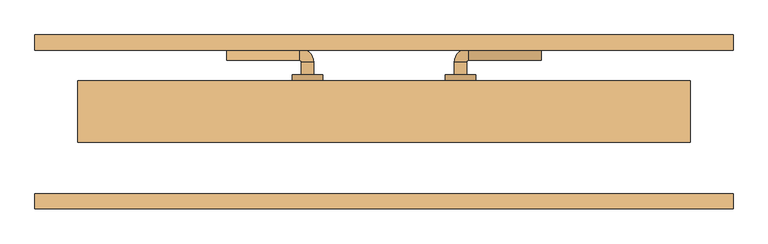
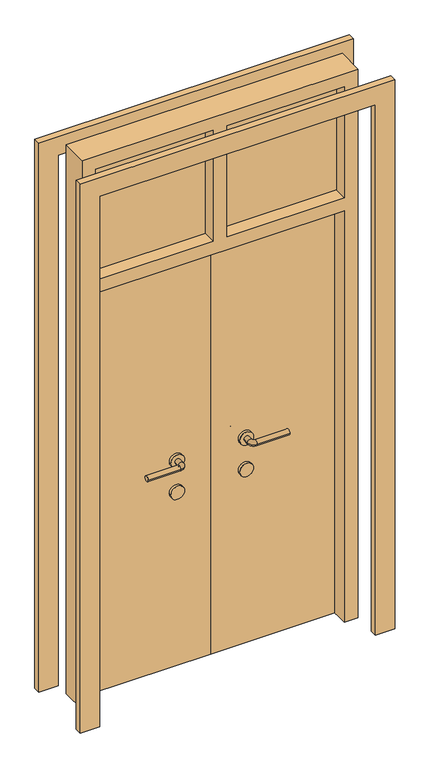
"""IFC4 building model written with IfcOpenShell, lengths in millimetres: door geometry, FM(丙）1 : FM(丙）1."""

from ifc_helpers import new_model, si_unit, point, frame, frame_2d, origin, origin_with_axes, place, context, project, spatial, polyline, circle_curve, ellipse_curve, trimmed, segment, composite_curve, outline, extrude, source, transform, mapped, element, save
from ifc_brep_helpers import plane_surface, cylinder_surface, revolved_surface, advanced_brep


def door_014e05d9(model_context):
    return source(origin(), model_context, "Body", "SolidModel", [
        extrude(outline(composite_curve([segment(trimmed(circle_curve(frame_2d((667.5, 125.0)), 25.0), [point((667.5, 150.0))], [point((667.5, 100.0))], False, "CARTESIAN"), True, "CONTINUOUS"), segment(trimmed(circle_curve(frame_2d((667.5, 125.0)), 25.0), [point((667.5, 100.0))], [point((667.5, 150.0))], False, "CARTESIAN"), True, "CONTINUOUS")], self_intersect=False)), frame((0.0, 17.0, 0.0), z_axis=(0.0, 1.0, 0.0), x_axis=(0.0, 0.0, 1.0)), (0.0, 0.0, 1.0), 10.0),
        extrude(outline(composite_curve([segment(trimmed(circle_curve(frame_2d((667.5, 125.0)), 25.0), [point((667.5, 150.0))], [point((667.5, 100.0))], False, "CARTESIAN"), True, "CONTINUOUS"), segment(trimmed(circle_curve(frame_2d((667.5, 125.0)), 25.0), [point((667.5, 100.0))], [point((667.5, 150.0))], False, "CARTESIAN"), True, "CONTINUOUS")], self_intersect=False)), frame((0.0, 67.0, 0.0), z_axis=(0.0, 1.0, 0.0), x_axis=(0.0, 0.0, 1.0)), (0.0, 0.0, 1.0), 10.0),
        advanced_brep(
        [(115.0, 17.0, 787.5), (135.0, 17.0, 787.5), (135.0, -3.6133551, 787.5), (115.0, -3.6133551, 787.5), (256.580964, -26.580964, 787.5), (256.580964, -6.580964, 787.5), (137.9676089, -6.580964, 787.5), (137.9676089, -26.580964, 787.5)],
        [
            (0, 1, circle_curve(frame((125.0, 17.0, 787.5), z_axis=(0.0, 1.0, 0.0), x_axis=(1.0, 0.0, 0.0)), 10.0)),
            (1, 0, circle_curve(frame((125.0, 17.0, 787.5), z_axis=(0.0, 1.0, 0.0), x_axis=(1.0, 0.0, 0.0)), 10.0)),
            (1, 2),
            (2, 3, circle_curve(frame((125.0, -3.6133551, 787.5), z_axis=(0.0, 1.0, 0.0), x_axis=(1.0, 0.0, 0.0)), 10.0)),
            (3, 0),
            (3, 2, circle_curve(frame((125.0, -3.6133551, 787.5), z_axis=(0.0, 1.0, 0.0), x_axis=(1.0, 0.0, 0.0)), 10.0)),
            (4, 5, circle_curve(frame((256.580964, -16.580964, 787.5), z_axis=(1.0, 0.0, 0.0), x_axis=(0.0, 1.0, 0.0)), 10.0)),
            (5, 4, circle_curve(frame((256.580964, -16.580964, 787.5), z_axis=(1.0, 0.0, 0.0), x_axis=(0.0, 1.0, 0.0)), 10.0)),
            (6, 2, circle_curve(frame((137.9676089, -3.6133551, 787.5), z_axis=(0.0, 0.0, -1.0), x_axis=(-1.0, 0.0, 0.0)), 2.9676089)),
            (3, 7, circle_curve(frame((137.9676089, -3.6133551, 787.5), z_axis=(0.0, 0.0, 1.0), x_axis=(-1.0, 0.0, 0.0)), 22.9676089)),
            (7, 6, circle_curve(frame((137.9676089, -16.580964, 787.5), z_axis=(-1.0, 0.0, 0.0), x_axis=(0.0, 1.0, 0.0)), 10.0)),
            (6, 7, circle_curve(frame((137.9676089, -16.580964, 787.5), z_axis=(-1.0, 0.0, 0.0), x_axis=(0.0, 1.0, 0.0)), 10.0)),
            (7, 4),
            (5, 6),
        ],
        [
            plane_surface(frame((125.0, 17.0, 667.5), z_axis=(0.0, 1.0, 0.0), x_axis=(0.0, 0.0, 1.0))),
            cylinder_surface(frame((125.0, 17.0, 787.5), z_axis=(0.0, 1.0, 0.0), x_axis=(1.0, 0.0, 0.0)), 10.0),
            plane_surface(frame((256.580964, -16.580964, 667.5), z_axis=(1.0, 0.0, 0.0), x_axis=(0.0, 0.0, 1.0))),
            revolved_surface(trimmed(ellipse_curve(frame((125.0, -3.6133551, 787.5), z_axis=(0.0, 1.0, 0.0), x_axis=(1.0, 0.0, 0.0)), 10.0, 10.0), [point((115.0, -3.6133551, 787.5))], [point((135.0, -3.6133551, 787.5))], True, "CARTESIAN"), (137.9676089, -3.6133551, 667.5), (0.0, 0.0, 1.0)),
            revolved_surface(trimmed(ellipse_curve(frame((125.0, -3.6133551, 787.5), z_axis=(0.0, 1.0, 0.0), x_axis=(1.0, 0.0, 0.0)), 10.0, 10.0), [point((135.0, -3.6133551, 787.5))], [point((115.0, -3.6133551, 787.5))], True, "CARTESIAN"), (137.9676089, -3.6133551, 667.5), (0.0, 0.0, 1.0)),
            cylinder_surface(frame((137.9676089, -16.580964, 787.5), z_axis=(-1.0, 0.0, 0.0), x_axis=(0.0, 1.0, 0.0)), 10.0),
        ],
        [
            (0, [[1, 2]]),
            (1, [[-2, 3, 4, 5]]),
            (1, [[-1, -5, 6, -3]]),
            (2, [[7, 8]]),
            (3, [[9, -6, 10, 11]]),
            (4, [[-10, -4, -9, 12]]),
            (5, [[-11, 13, -8, 14]]),
            (5, [[-12, -14, -7, -13]]),
        ],
    ),
        extrude(outline(composite_curve([segment(trimmed(circle_curve(frame_2d((787.5, 125.0)), 25.0), [point((787.5, 150.0))], [point((787.5, 100.0))], False, "CARTESIAN"), True, "CONTINUOUS"), segment(trimmed(circle_curve(frame_2d((787.5, 125.0)), 25.0), [point((787.5, 100.0))], [point((787.5, 150.0))], False, "CARTESIAN"), True, "CONTINUOUS")], self_intersect=False)), frame((0.0, 17.0, 0.0), z_axis=(0.0, 1.0, 0.0), x_axis=(0.0, 0.0, 1.0)), (0.0, 0.0, 1.0), 10.0),
        advanced_brep(
        [(135.0, 77.0, 787.5), (115.0, 77.0, 787.5), (135.0, 97.6133551, 787.5), (115.0, 97.6133551, 787.5), (256.580964, 100.580964, 787.5), (256.580964, 120.580964, 787.5), (137.9676089, 120.580964, 787.5), (137.9676089, 100.580964, 787.5)],
        [
            (0, 1, circle_curve(frame((125.0, 77.0, 787.5), z_axis=(0.0, -1.0, 0.0), x_axis=(-1.0, 0.0, 0.0)), 10.0)),
            (1, 0, circle_curve(frame((125.0, 77.0, 787.5), z_axis=(0.0, -1.0, 0.0), x_axis=(-1.0, 0.0, 0.0)), 10.0)),
            (0, 2),
            (2, 3, circle_curve(frame((125.0, 97.6133551, 787.5), z_axis=(0.0, -1.0, 0.0), x_axis=(-1.0, 0.0, 0.0)), 10.0)),
            (3, 1),
            (3, 2, circle_curve(frame((125.0, 97.6133551, 787.5), z_axis=(0.0, -1.0, 0.0), x_axis=(-1.0, 0.0, 0.0)), 10.0)),
            (4, 5, circle_curve(frame((256.580964, 110.580964, 787.5), z_axis=(1.0, 0.0, 0.0), x_axis=(0.0, 1.0, 0.0)), 10.0)),
            (5, 4, circle_curve(frame((256.580964, 110.580964, 787.5), z_axis=(1.0, 0.0, 0.0), x_axis=(0.0, 1.0, 0.0)), 10.0)),
            (6, 3, circle_curve(frame((137.9676089, 97.6133551, 787.5), z_axis=(0.0, 0.0, 1.0), x_axis=(-1.0, 0.0, 0.0)), 22.9676089)),
            (2, 7, circle_curve(frame((137.9676089, 97.6133551, 787.5), z_axis=(0.0, 0.0, -1.0), x_axis=(-1.0, 0.0, 0.0)), 2.9676089)),
            (7, 6, circle_curve(frame((137.9676089, 110.580964, 787.5), z_axis=(-1.0, 0.0, 0.0), x_axis=(0.0, 1.0, 0.0)), 10.0)),
            (6, 7, circle_curve(frame((137.9676089, 110.580964, 787.5), z_axis=(-1.0, 0.0, 0.0), x_axis=(0.0, 1.0, 0.0)), 10.0)),
            (7, 4),
            (5, 6),
        ],
        [
            plane_surface(frame((125.0, 77.0, 667.5), z_axis=(0.0, -1.0, 0.0), x_axis=(0.0, 0.0, 1.0))),
            cylinder_surface(frame((125.0, 77.0, 787.5), z_axis=(0.0, -1.0, 0.0), x_axis=(-1.0, 0.0, 0.0)), 10.0),
            plane_surface(frame((256.580964, 110.580964, 667.5), z_axis=(1.0, 0.0, 0.0), x_axis=(0.0, 0.0, 1.0))),
            revolved_surface(trimmed(ellipse_curve(frame((125.0, 97.6133551, 787.5), z_axis=(0.0, -1.0, 0.0), x_axis=(-1.0, 0.0, 0.0)), 10.0, 10.0), [point((135.0, 97.6133551, 787.5))], [point((115.0, 97.6133551, 787.5))], True, "CARTESIAN"), (137.9676089, 97.6133551, 667.5), (0.0, 0.0, -1.0)),
            revolved_surface(trimmed(ellipse_curve(frame((125.0, 97.6133551, 787.5), z_axis=(0.0, -1.0, 0.0), x_axis=(-1.0, 0.0, 0.0)), 10.0, 10.0), [point((115.0, 97.6133551, 787.5))], [point((135.0, 97.6133551, 787.5))], True, "CARTESIAN"), (137.9676089, 97.6133551, 667.5), (0.0, 0.0, -1.0)),
            cylinder_surface(frame((137.9676089, 110.580964, 787.5), z_axis=(-1.0, 0.0, 0.0), x_axis=(0.0, 1.0, 0.0)), 10.0),
        ],
        [
            (0, [[1, 2]]),
            (1, [[-1, 3, 4, 5]]),
            (1, [[-2, -5, 6, -3]]),
            (2, [[7, 8]]),
            (3, [[9, -4, 10, 11]]),
            (4, [[-10, -6, -9, 12]]),
            (5, [[-11, 13, -8, 14]]),
            (5, [[-12, -14, -7, -13]]),
        ],
    ),
        extrude(outline(composite_curve([segment(trimmed(circle_curve(frame_2d((787.5, 125.0)), 25.0), [point((787.5, 150.0))], [point((787.5, 100.0))], False, "CARTESIAN"), True, "CONTINUOUS"), segment(trimmed(circle_curve(frame_2d((787.5, 125.0)), 25.0), [point((787.5, 100.0))], [point((787.5, 150.0))], False, "CARTESIAN"), True, "CONTINUOUS")], self_intersect=False)), frame((0.0, 67.0, 0.0), z_axis=(0.0, 1.0, 0.0), x_axis=(0.0, 0.0, 1.0)), (0.0, 0.0, 1.0), 10.0),
        extrude(outline(composite_curve([segment(trimmed(circle_curve(frame_2d((667.5, -125.0)), 25.0), [point((667.5, -150.0))], [point((667.5, -100.0))], False, "CARTESIAN"), True, "CONTINUOUS"), segment(trimmed(circle_curve(frame_2d((667.5, -125.0)), 25.0), [point((667.5, -100.0))], [point((667.5, -150.0))], False, "CARTESIAN"), True, "CONTINUOUS")], self_intersect=False)), frame((0.0, 67.0, 0.0), z_axis=(0.0, 1.0, 0.0), x_axis=(0.0, 0.0, 1.0)), (0.0, 0.0, 1.0), 10.0),
        extrude(outline(composite_curve([segment(trimmed(circle_curve(frame_2d((667.5, -125.0)), 25.0), [point((667.5, -150.0))], [point((667.5, -100.0))], False, "CARTESIAN"), True, "CONTINUOUS"), segment(trimmed(circle_curve(frame_2d((667.5, -125.0)), 25.0), [point((667.5, -100.0))], [point((667.5, -150.0))], False, "CARTESIAN"), True, "CONTINUOUS")], self_intersect=False)), frame((0.0, 17.0, 0.0), z_axis=(0.0, 1.0, 0.0), x_axis=(0.0, 0.0, 1.0)), (0.0, 0.0, 1.0), 10.0),
        advanced_brep(
        [(-115.0, 77.0, 787.5), (-135.0, 77.0, 787.5), (-135.0, 97.6133551, 787.5), (-115.0, 97.6133551, 787.5), (-256.580964, 120.580964, 787.5), (-256.580964, 100.580964, 787.5), (-137.9676089, 100.580964, 787.5), (-137.9676089, 120.580964, 787.5)],
        [
            (0, 1, circle_curve(frame((-125.0, 77.0, 787.5), z_axis=(0.0, -1.0, 0.0), x_axis=(-1.0, 0.0, 0.0)), 10.0)),
            (1, 0, circle_curve(frame((-125.0, 77.0, 787.5), z_axis=(0.0, -1.0, 0.0), x_axis=(-1.0, 0.0, 0.0)), 10.0)),
            (1, 2),
            (2, 3, circle_curve(frame((-125.0, 97.6133551, 787.5), z_axis=(0.0, -1.0, 0.0), x_axis=(-1.0, 0.0, 0.0)), 10.0)),
            (3, 0),
            (3, 2, circle_curve(frame((-125.0, 97.6133551, 787.5), z_axis=(0.0, -1.0, 0.0), x_axis=(-1.0, 0.0, 0.0)), 10.0)),
            (4, 5, circle_curve(frame((-256.580964, 110.580964, 787.5), z_axis=(-1.0, 0.0, 0.0), x_axis=(0.0, -1.0, 0.0)), 10.0)),
            (5, 4, circle_curve(frame((-256.580964, 110.580964, 787.5), z_axis=(-1.0, 0.0, 0.0), x_axis=(0.0, -1.0, 0.0)), 10.0)),
            (6, 2, circle_curve(frame((-137.9676089, 97.6133551, 787.5), z_axis=(0.0, 0.0, -1.0), x_axis=(1.0, 0.0, 0.0)), 2.9676089)),
            (3, 7, circle_curve(frame((-137.9676089, 97.6133551, 787.5), z_axis=(0.0, 0.0, 1.0), x_axis=(1.0, 0.0, 0.0)), 22.9676089)),
            (7, 6, circle_curve(frame((-137.9676089, 110.580964, 787.5), z_axis=(1.0, 0.0, 0.0), x_axis=(0.0, -1.0, 0.0)), 10.0)),
            (6, 7, circle_curve(frame((-137.9676089, 110.580964, 787.5), z_axis=(1.0, 0.0, 0.0), x_axis=(0.0, -1.0, 0.0)), 10.0)),
            (7, 4),
            (5, 6),
        ],
        [
            plane_surface(frame((-125.0, 77.0, 667.5), z_axis=(0.0, -1.0, 0.0), x_axis=(0.0, 0.0, 1.0))),
            cylinder_surface(frame((-125.0, 77.0, 787.5), z_axis=(0.0, -1.0, 0.0), x_axis=(-1.0, 0.0, 0.0)), 10.0),
            plane_surface(frame((-256.580964, 110.580964, 667.5), z_axis=(-1.0, 0.0, 0.0), x_axis=(0.0, 0.0, 1.0))),
            revolved_surface(trimmed(ellipse_curve(frame((-125.0, 97.6133551, 787.5), z_axis=(0.0, -1.0, 0.0), x_axis=(-1.0, 0.0, 0.0)), 10.0, 10.0), [point((-115.0, 97.6133551, 787.5))], [point((-135.0, 97.6133551, 787.5))], True, "CARTESIAN"), (-137.9676089, 97.6133551, 667.5), (0.0, 0.0, 1.0)),
            revolved_surface(trimmed(ellipse_curve(frame((-125.0, 97.6133551, 787.5), z_axis=(0.0, -1.0, 0.0), x_axis=(-1.0, 0.0, 0.0)), 10.0, 10.0), [point((-135.0, 97.6133551, 787.5))], [point((-115.0, 97.6133551, 787.5))], True, "CARTESIAN"), (-137.9676089, 97.6133551, 667.5), (0.0, 0.0, 1.0)),
            cylinder_surface(frame((-137.9676089, 110.580964, 787.5), z_axis=(1.0, 0.0, 0.0), x_axis=(0.0, -1.0, 0.0)), 10.0),
        ],
        [
            (0, [[1, 2]]),
            (1, [[-2, 3, 4, 5]]),
            (1, [[-1, -5, 6, -3]]),
            (2, [[7, 8]]),
            (3, [[9, -6, 10, 11]]),
            (4, [[-10, -4, -9, 12]]),
            (5, [[-11, 13, -8, 14]]),
            (5, [[-12, -14, -7, -13]]),
        ],
    ),
        extrude(outline(composite_curve([segment(trimmed(circle_curve(frame_2d((787.5, -125.0)), 25.0), [point((787.5, -150.0))], [point((787.5, -100.0))], False, "CARTESIAN"), True, "CONTINUOUS"), segment(trimmed(circle_curve(frame_2d((787.5, -125.0)), 25.0), [point((787.5, -100.0))], [point((787.5, -150.0))], False, "CARTESIAN"), True, "CONTINUOUS")], self_intersect=False)), frame((0.0, 67.0, 0.0), z_axis=(0.0, 1.0, 0.0), x_axis=(0.0, 0.0, 1.0)), (0.0, 0.0, 1.0), 10.0),
        advanced_brep(
        [(-135.0, 17.0, 787.5), (-115.0, 17.0, 787.5), (-135.0, -3.6133551, 787.5), (-115.0, -3.6133551, 787.5), (-256.580964, -6.580964, 787.5), (-256.580964, -26.580964, 787.5), (-137.9676089, -26.580964, 787.5), (-137.9676089, -6.580964, 787.5)],
        [
            (0, 1, circle_curve(frame((-125.0, 17.0, 787.5), z_axis=(0.0, 1.0, 0.0), x_axis=(1.0, 0.0, 0.0)), 10.0)),
            (1, 0, circle_curve(frame((-125.0, 17.0, 787.5), z_axis=(0.0, 1.0, 0.0), x_axis=(1.0, 0.0, 0.0)), 10.0)),
            (0, 2),
            (2, 3, circle_curve(frame((-125.0, -3.6133551, 787.5), z_axis=(0.0, 1.0, 0.0), x_axis=(1.0, 0.0, 0.0)), 10.0)),
            (3, 1),
            (3, 2, circle_curve(frame((-125.0, -3.6133551, 787.5), z_axis=(0.0, 1.0, 0.0), x_axis=(1.0, 0.0, 0.0)), 10.0)),
            (4, 5, circle_curve(frame((-256.580964, -16.580964, 787.5), z_axis=(-1.0, 0.0, 0.0), x_axis=(0.0, -1.0, 0.0)), 10.0)),
            (5, 4, circle_curve(frame((-256.580964, -16.580964, 787.5), z_axis=(-1.0, 0.0, 0.0), x_axis=(0.0, -1.0, 0.0)), 10.0)),
            (6, 3, circle_curve(frame((-137.9676089, -3.6133551, 787.5), z_axis=(0.0, 0.0, 1.0), x_axis=(1.0, 0.0, 0.0)), 22.9676089)),
            (2, 7, circle_curve(frame((-137.9676089, -3.6133551, 787.5), z_axis=(0.0, 0.0, -1.0), x_axis=(1.0, 0.0, 0.0)), 2.9676089)),
            (7, 6, circle_curve(frame((-137.9676089, -16.580964, 787.5), z_axis=(1.0, 0.0, 0.0), x_axis=(0.0, -1.0, 0.0)), 10.0)),
            (6, 7, circle_curve(frame((-137.9676089, -16.580964, 787.5), z_axis=(1.0, 0.0, 0.0), x_axis=(0.0, -1.0, 0.0)), 10.0)),
            (7, 4),
            (5, 6),
        ],
        [
            plane_surface(frame((-125.0, 17.0, 667.5), z_axis=(0.0, 1.0, 0.0), x_axis=(0.0, 0.0, 1.0))),
            cylinder_surface(frame((-125.0, 17.0, 787.5), z_axis=(0.0, 1.0, 0.0), x_axis=(1.0, 0.0, 0.0)), 10.0),
            plane_surface(frame((-256.580964, -16.580964, 667.5), z_axis=(-1.0, 0.0, 0.0), x_axis=(0.0, 0.0, 1.0))),
            revolved_surface(trimmed(ellipse_curve(frame((-125.0, -3.6133551, 787.5), z_axis=(0.0, 1.0, 0.0), x_axis=(1.0, 0.0, 0.0)), 10.0, 10.0), [point((-135.0, -3.6133551, 787.5))], [point((-115.0, -3.6133551, 787.5))], True, "CARTESIAN"), (-137.9676089, -3.6133551, 667.5), (0.0, 0.0, -1.0)),
            revolved_surface(trimmed(ellipse_curve(frame((-125.0, -3.6133551, 787.5), z_axis=(0.0, 1.0, 0.0), x_axis=(1.0, 0.0, 0.0)), 10.0, 10.0), [point((-115.0, -3.6133551, 787.5))], [point((-135.0, -3.6133551, 787.5))], True, "CARTESIAN"), (-137.9676089, -3.6133551, 667.5), (0.0, 0.0, -1.0)),
            cylinder_surface(frame((-137.9676089, -16.580964, 787.5), z_axis=(1.0, 0.0, 0.0), x_axis=(0.0, -1.0, 0.0)), 10.0),
        ],
        [
            (0, [[1, 2]]),
            (1, [[-1, 3, 4, 5]]),
            (1, [[-2, -5, 6, -3]]),
            (2, [[7, 8]]),
            (3, [[9, -4, 10, 11]]),
            (4, [[-10, -6, -9, 12]]),
            (5, [[-11, 13, -8, 14]]),
            (5, [[-12, -14, -7, -13]]),
        ],
    ),
        extrude(outline(composite_curve([segment(trimmed(circle_curve(frame_2d((787.5, -125.0)), 25.0), [point((787.5, -150.0))], [point((787.5, -100.0))], False, "CARTESIAN"), True, "CONTINUOUS"), segment(trimmed(circle_curve(frame_2d((787.5, -125.0)), 25.0), [point((787.5, -100.0))], [point((787.5, -150.0))], False, "CARTESIAN"), True, "CONTINUOUS")], self_intersect=False)), frame((0.0, 17.0, 0.0), z_axis=(0.0, 1.0, 0.0), x_axis=(0.0, 0.0, 1.0)), (0.0, 0.0, 1.0), 10.0),
        extrude(outline(polyline([(0.0, -570.0), (0.0, -500.0), (2030.0, -500.0), (2030.0, 500.0), (0.0, 500.0), (0.0, 570.0), (2100.0, 570.0), (2100.0, -570.0), (0.0, -570.0)])), frame((0.0, -142.0, 0.0), z_axis=(0.0, 1.0, 0.0), x_axis=(0.0, 0.0, 1.0)), (0.0, 0.0, 1.0), 25.0),
        extrude(outline(polyline([(0.0, -570.0), (0.0, -500.0), (2030.0, -500.0), (2030.0, 500.0), (0.0, 500.0), (0.0, 570.0), (2100.0, 570.0), (2100.0, -570.0), (0.0, -570.0)])), frame((0.0, 117.0, 0.0), z_axis=(0.0, 1.0, 0.0), x_axis=(0.0, 0.0, 1.0)), (0.0, 0.0, 1.0), 25.0),
        extrude(outline(polyline([(450.0, 16.2), (25.0, 16.2), (25.0, 54.3), (450.0, 54.3), (450.0, 16.2)])), frame((0.0, 0.0, 1625.0), z_axis=(0.0, 0.0, 1.0), x_axis=(1.0, 0.0, 0.0)), (0.0, 0.0, 1.0), 425.0),
        extrude(outline(polyline([(-25.0, 16.2), (-450.0, 16.2), (-450.0, 54.3), (-25.0, 54.3), (-25.0, 16.2)])), frame((0.0, 0.0, 1625.0), z_axis=(0.0, 0.0, 1.0), x_axis=(1.0, 0.0, 0.0)), (0.0, 0.0, 1.0), 425.0),
        extrude(outline(polyline([(0.0, 27.0), (-450.0, 27.0), (-450.0, 67.0), (0.0, 67.0), (0.0, 27.0)])), origin_with_axes(), (0.0, 0.0, 1.0), 1575.0),
        extrude(outline(polyline([(450.0, 27.0), (0.0, 27.0), (0.0, 67.0), (450.0, 67.0), (450.0, 27.0)])), origin_with_axes(), (0.0, 0.0, 1.0), 1575.0),
        extrude(outline(polyline([(0.0, 500.0), (2100.0, 500.0), (2100.0, -500.0), (0.0, -500.0), (0.0, -450.0), (1575.0, -450.0), (1575.0, 450.0), (0.0, 450.0), (0.0, 500.0)]), holes=[polyline([(2050.0, 25.0), (2050.0, 450.0), (1625.0, 450.0), (1625.0, 25.0), (2050.0, 25.0)]), polyline([(1625.0, -25.0), (1625.0, -450.0), (2050.0, -450.0), (2050.0, -25.0), (1625.0, -25.0)])]), frame((0.0, -33.0, 0.0), z_axis=(0.0, 1.0, 0.0), x_axis=(0.0, 0.0, 1.0)), (0.0, 0.0, 1.0), 100.0),
    ])


if __name__ == "__main__":
    model = new_model("IFC4")
    model_context = context("Model", 3, world=origin())
    ifc_project = project(units=[si_unit("LENGTHUNIT", "METRE", prefix="MILLI")], contexts=[model_context])
    site = spatial("IfcSite", under=ifc_project)
    building = spatial("IfcBuilding", under=site)
    placement = place(None, origin())
    door_shape = door_014e05d9(model_context)
    element("IfcDoor", 1, ObjectType="FM(丙）1 : FM(丙）1", at=placement, inside=building, context=model_context, shape_type="MappedRepresentation", body=[
        mapped(door_shape, transform((0.0, 0.0, 0.0), x_axis=(1.0, 0.0, 0.0), y_axis=(0.0, 1.0, 0.0), z_axis=(0.0, 0.0, 1.0))),
    ])
    save(model, "model.ifc")
